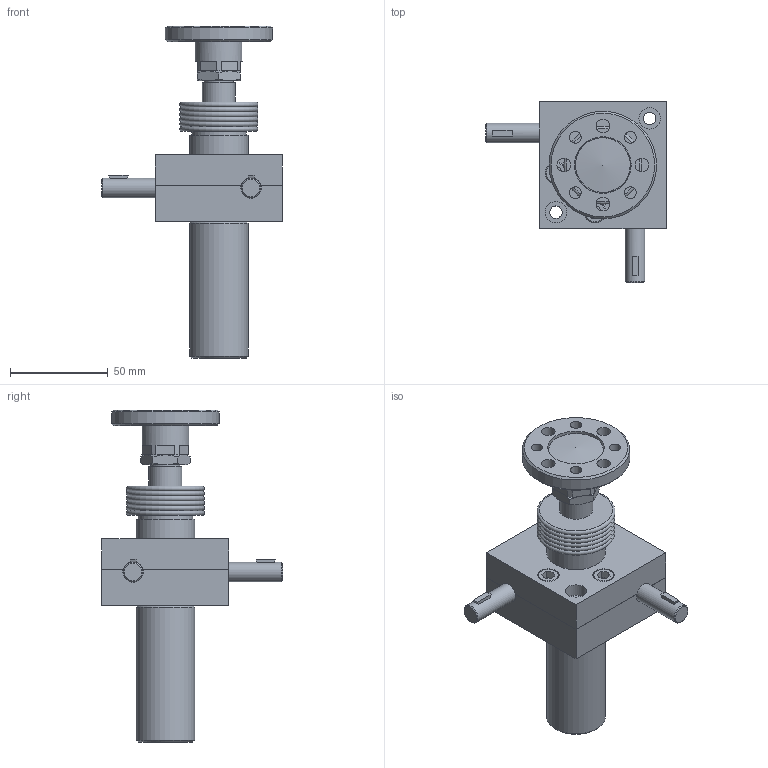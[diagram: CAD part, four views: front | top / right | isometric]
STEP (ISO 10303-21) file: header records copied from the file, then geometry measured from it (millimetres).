
FILE_DESCRIPTION(('STEP AP203'),'1');
FILE_NAME('SP1-100FCJ-50ST_CAP.stp','2016-08-18T01:51:30',(' '),(' '),'Spatial InterOp 3D',' ',' ');
FILE_SCHEMA(('CONFIG_CONTROL_DESIGN'));
Length unit declared in the file: millimetre
Products named in the file (39): SP1-100FCJ-50ST_CAP; Rack Gear(SP-100FC); Flange-Part; Flange; Joint; Nut; Bellow(SP-100); Body-Part; Bolt; Key; Gear Box(Upper); Gear Box(Lower); Body_stand by; Cap-Part; Cap; SnapRing; Cover; RJ05-4SCJ-610X600-100ST_CAP; LABEL-B.1; ___; 파트18; __
Assembly tree (39 placements, depth 5):
  SP1-100FCJ-50ST_CAP
    Rack Gear(SP-100FC)
    Flange-Part
      Flange
      Joint
      Nut
    Bellow(SP-100)
    Body-Part
      Bolt
      Bolt
      Bolt
      Key
      Key
      (unnamed)  x2
      Gear Box(Upper)
      Gear Box(Lower)
        Body_stand by
        Body_stand by
        Body_stand by
        Body_stand by
        Body_stand by
        Body_stand by
        Body_stand by
        Body_stand by
        Body_stand by
        Body_stand by
        Body_stand by
        Body_stand by
        Body_stand by
        Body_stand by
    Cap-Part
      Cap
      SnapRing
      Cover
    __
      ___
        RJ05-4SCJ-610X600-100ST_CAP
          LABEL-B.1
        파트18
Bounding box: 92.5 x 92.7 x 170 mm (x, y, z)
Volume: 124053.2 mm3; surface area: 91720.6 mm2
Topology: 31 solids, 171 shells, 2533 faces, 7507 edges, 5239 vertices
Faces by surface type: plane 2310, cylinder 134, cone 39, bspline 32, torus 17, sphere 1
Full cylindrical faces by diameter (mm): 1.525 x2, 5 x3, 6 x4, 6.4 x5, 7 x4, 10 x2, 11 x8, 13.8 x1, 15 x4, 15.4 x1, 17 x3, 17.2 x1, 17.8 x1, 23 x1, 24 x1, 25 x3, 25.9 x1, 26 x3, 26.2 x1, 27 x1, 28 x4, 29 x1, 30 x2, 37.5 x5, 55 x1
Entity records: 88221 total; most frequent: CARTESIAN_POINT 19640, ORIENTED_EDGE 13814, DIRECTION 12815, EDGE_CURVE 7282, LINE 6503, VECTOR 6503, VERTEX_POINT 5157, AXIS2_PLACEMENT_3D 3156
